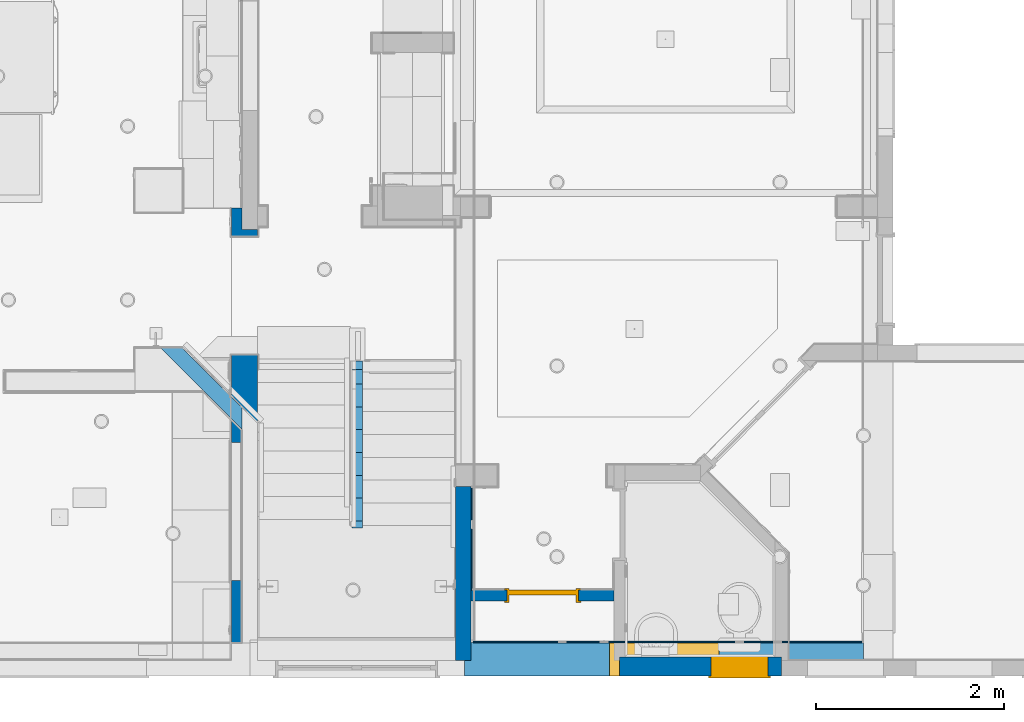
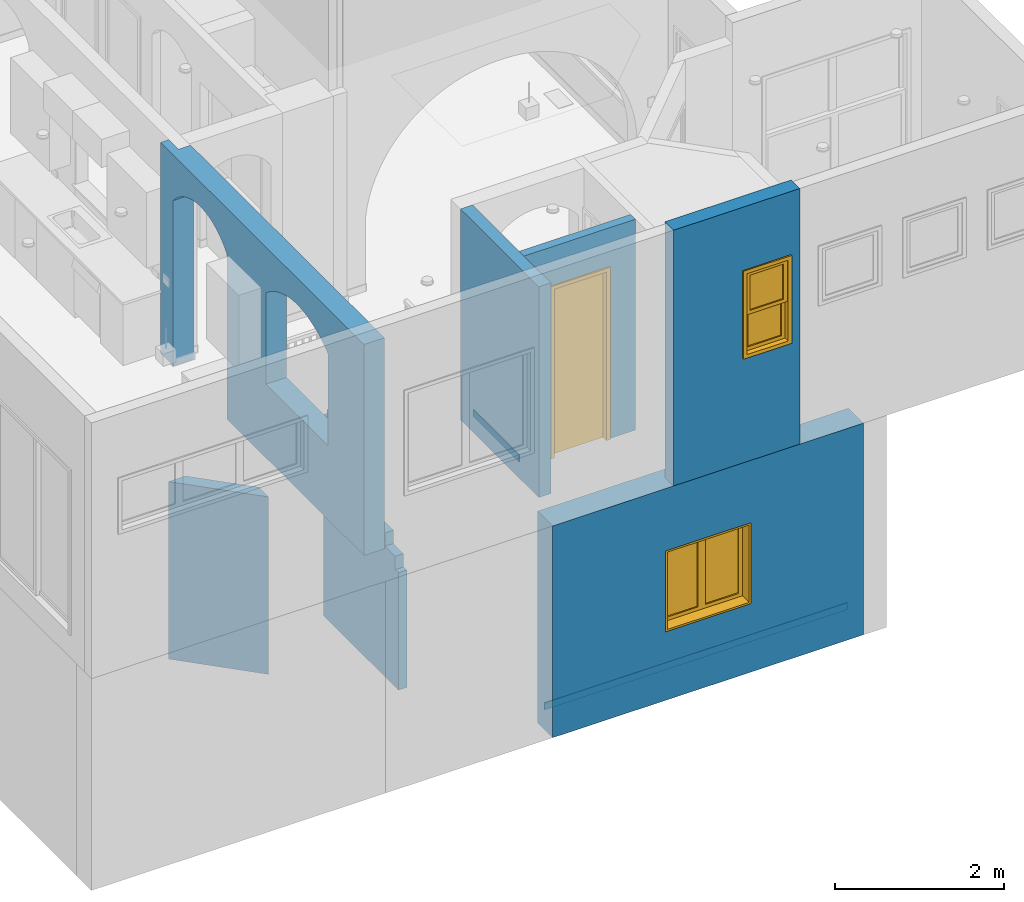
# One storey, part 4 of 60: 9 walls, 2 windows, 1 door, 8 openings.
"""IFC2X3 building model written with IfcOpenShell, lengths in feet."""

from ifc_helpers import new_model, entity, si_unit, converted_unit, direction, frame, frame_2d, origin, origin_2d_with_axis, place, context, subcontext, project, spatial, polyline, circle_curve, parameter, trimmed, segment, composite_curve, rectangle, outline, extrude, clip, bounded_halfspace, source, transform, mapped, material, material_list, layer, layer_set, layer_usage, type_object, type_shapes, element, fill, save


model = new_model("IFC2X3")

# Units and contexts
model_context = context("Model", 3, precision=0.0001, world=origin(), true_north=direction((6.123031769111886e-17, 1.0)))
plan_context = context("Plan", 3, precision=0.0001, world=origin(), true_north=direction((6.123031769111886e-17, 1.0)))
body_context = subcontext(model_context, "Body", "Model", "MODEL_VIEW")
ifc_project = project(units=[converted_unit("LENGTHUNIT", "FOOT", entity("IfcLengthMeasure", 0.3048), si_unit("LENGTHUNIT", "METRE"), dimensions=[1, 0, 0, 0, 0, 0, 0]), converted_unit("AREAUNIT", "SQUARE FOOT", entity("IfcAreaMeasure", 0.09290304), si_unit("AREAUNIT", "SQUARE_METRE"), dimensions=[2, 0, 0, 0, 0, 0, 0]), converted_unit("PLANEANGLEUNIT", "DEGREE", entity("IfcPlaneAngleMeasure", 0.017453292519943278), si_unit("PLANEANGLEUNIT", "RADIAN"), dimensions=[0, 0, 0, 0, 0, 0, 0])], contexts=[model_context, plan_context])

# Site, building, storey
site_placement = place(None, origin())
site = spatial("IfcSite", under=ifc_project, at=site_placement, Name="Default", CompositionType="ELEMENT")
building_placement = place(site_placement, origin())
building = spatial("IfcBuilding", under=site, at=building_placement, CompositionType="ELEMENT")
storey_placement = place(building_placement, origin())
storey = spatial("IfcBuildingStorey", under=building, at=storey_placement, Name="First floor", CompositionType="ELEMENT", Elevation=0.0)

# Walls
ifc_material_1 = material(Name="Default New Material")
ifc_layer_1 = layer(ifc_material_1, 0.5416666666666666)
ifc_layer_set_1 = layer_set([ifc_layer_1], Name="Basic Wall:Wall_6.5\"")
ifc_layer_usage_1 = layer_usage(ifc_layer_set_1, "AXIS2", "NEGATIVE", 0.2708333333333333)
wall_type_1 = type_object("IfcWallType", Name="Basic Wall:Wall_6.5\"", PredefinedType="STANDARD", material=ifc_layer_set_1)
wall_1_placement = place(storey_placement, frame((20.645833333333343, 6.625000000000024, 10.666666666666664), z_axis=(0.0, 0.0, 1.0), x_axis=(0.0, -1.0, 0.0)))
element("IfcWallStandardCase", 1, at=wall_1_placement, inside=storey, type_object=wall_type_1, material=ifc_layer_usage_1, Name="Basic Wall:Wall_6.5\"", ObjectType="Basic Wall:Wall_6.5\"", context=body_context, shape_type="SweptSolid", body=[
    extrude(rectangle(XDim=6.083333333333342, YDim=0.5416666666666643, at=frame_2d((3.041666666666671, 0.0), x_axis=(-1.0, 0.0))), origin(), (0.0, 0.0, 1.0), 10.0),
])
ifc_layer_usage_2 = layer_usage(ifc_layer_set_1, "AXIS2", "POSITIVE", -0.2708333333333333)
wall_2_placement = place(storey_placement, frame((13.10817367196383, 8.800476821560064, 0.0), z_axis=(0.0, 0.0, 1.0), x_axis=(-0.7071067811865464, 0.7071067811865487, 0.0)))
element("IfcWallStandardCase", 2, at=wall_2_placement, inside=storey, type_object=wall_type_1, material=ifc_layer_usage_2, Name="Basic Wall:Wall_6.5\"", ObjectType="Basic Wall:Wall_6.5\"", context=body_context, shape_type="SweptSolid", body=[
    extrude(outline(polyline([(3.4879155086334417, -0.27083333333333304), (4.0296049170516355, 0.2708333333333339), (1.9082400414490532, 0.2708333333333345), (0.0, 0.2708333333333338), (0.5416666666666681, -0.2708333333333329), (3.4879155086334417, -0.27083333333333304)])), origin(), (0.0, 0.0, 1.0), 8.416666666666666),
])

# Wall, opening, window
ifc_layer_2 = layer(ifc_material_1, 0.6666666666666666)
ifc_layer_set_2 = layer_set([ifc_layer_2], Name="Basic Wall:Wall_8\"")
ifc_layer_usage_3 = layer_usage(ifc_layer_set_2, "AXIS2", "NEGATIVE", 0.33333333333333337)
wall_type_2 = type_object("IfcWallType", Name="Basic Wall:Wall_8\"", PredefinedType="STANDARD", material=ifc_layer_set_2)
wall_3_placement = place(storey_placement, frame((31.770833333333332, 0.33333333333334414, 9.541666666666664), z_axis=(0.0, 0.0, 1.0), x_axis=(-1.0, 0.0, 0.0)))
wall_3 = element("IfcWallStandardCase", 3, at=wall_3_placement, inside=storey, type_object=wall_type_2, material=ifc_layer_usage_3, Name="Basic Wall:Wall_8\"", ObjectType="Basic Wall:Wall_8\"", context=body_context, shape_type="SweptSolid", body=[
    extrude(rectangle(XDim=5.666666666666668, YDim=0.6666666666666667, at=frame_2d((2.833333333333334, 0.0), x_axis=(-1.0, 0.0))), origin(), (0.0, 0.0, 1.0), 12.125),
])
opening_1_placement = place(wall_3_placement, frame((0.4791666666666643, -0.3333333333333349, 5.041666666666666)))
opening_1 = element("IfcOpeningElement", 4, at=opening_1_placement, cuts=wall_3, Name="C_Window Guilotine:1'-10\" X 3'-10\":1", ObjectType="Opening", context=body_context, shape_type="SweptSolid", body=[
    extrude(rectangle(XDim=1.9999999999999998, YDim=4.000000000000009, at=frame_2d((2.0000000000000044, 1.0), x_axis=(0.0, -1.0))), frame((0.0, 0.0, 0.0), z_axis=(0.0, 1.0, 0.0), x_axis=(0.0, 0.0, 1.0)), (0.0, 0.0, 1.0), 0.6666666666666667),
])
ifc_material_2 = material(Name="Glass")
ifc_material_list_1 = material_list([ifc_material_1, ifc_material_2])
window_style_1 = type_object("IfcWindowStyle", Name="C_Window Guilotine:1'-10\" X 3'-10\"", ConstructionType="NOTDEFINED", OperationType="NOTDEFINED", ParameterTakesPrecedence=False, Sizeable=False, material=ifc_material_list_1)
shared_shape_1 = source(origin(), body_context, "Body", "SweptSolid", [
    extrude(outline(polyline([(-1.0, -0.9166666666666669), (1.0, -0.9166666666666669), (1.0, 0.9166666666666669), (-1.0, 0.9166666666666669), (-1.0, -0.9166666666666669)]), holes=[polyline([(-0.8333333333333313, -0.7500000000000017), (-0.8333333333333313, 0.7499999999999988), (0.8333333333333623, 0.749999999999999), (0.8333333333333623, -0.7500000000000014), (-0.8333333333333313, -0.7500000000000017)])]), frame((1.0, 0.6666666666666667, 2.9166666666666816), z_axis=(0.0, -1.0, 0.0), x_axis=(0.0, 0.0, -1.0)), (0.0, 0.0, 1.0), 0.1666666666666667),
    extrude(rectangle(XDim=0.04166666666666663, YDim=1.5000000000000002, at=origin_2d_with_axis()), frame((1.0, 0.4166666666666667, 1.3402777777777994), z_axis=(0.0, 0.0, 1.0), x_axis=(0.0, 1.0, 0.0)), (0.0, 0.0, 1.0), 0.04166666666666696),
    extrude(rectangle(XDim=0.04166666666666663, YDim=1.5000000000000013, at=origin_2d_with_axis()), frame((1.0, 0.4166666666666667, 0.7847222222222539), z_axis=(0.0, 0.0, 1.0), x_axis=(0.0, 1.0, 0.0)), (0.0, 0.0, 1.0), 0.04166666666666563),
    extrude(rectangle(XDim=0.04166666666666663, YDim=1.5000000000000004, at=origin_2d_with_axis()), frame((1.0, 0.5833333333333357, 3.1736111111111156), z_axis=(0.0, 0.0, 1.0), x_axis=(0.0, 1.0, 0.0)), (0.0, 0.0, 1.0), 0.04166666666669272),
    extrude(rectangle(XDim=0.04166666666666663, YDim=1.5000000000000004, at=origin_2d_with_axis()), frame((1.0, 0.5833333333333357, 2.618055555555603), z_axis=(0.0, 0.0, 1.0), x_axis=(0.0, 1.0, 0.0)), (0.0, 0.0, 1.0), 0.04166666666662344),
    extrude(rectangle(XDim=0.04166666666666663, YDim=0.04166666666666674, at=origin_2d_with_axis()), frame((0.7500000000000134, 0.5833333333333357, 2.083333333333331), z_axis=(0.0, 0.0, 1.0), x_axis=(0.0, 1.0, 0.0)), (0.0, 0.0, 1.0), 1.666666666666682),
    extrude(rectangle(XDim=0.04166666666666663, YDim=0.04166666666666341, at=origin_2d_with_axis()), frame((1.250000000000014, 0.5833333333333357, 2.0833333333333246), z_axis=(0.0, 0.0, 1.0), x_axis=(0.0, 1.0, 0.0)), (0.0, 0.0, 1.0), 1.66666666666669),
    extrude(rectangle(XDim=0.04166666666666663, YDim=1.5000000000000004, at=origin_2d_with_axis()), frame((1.0, 0.5833333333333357, 2.0833333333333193), z_axis=(0.0, 0.0, 1.0), x_axis=(0.0, 1.0, 0.0)), (0.0, 0.0, 1.0), 1.6666666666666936),
    extrude(rectangle(XDim=0.04166666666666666, YDim=0.04166666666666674, at=origin_2d_with_axis()), frame((0.7500000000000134, 0.416666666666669, 0.2500000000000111), z_axis=(0.0, 0.0, 1.0), x_axis=(0.0, 1.0, 0.0)), (0.0, 0.0, 1.0), 1.66666666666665),
    extrude(rectangle(XDim=0.04166666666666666, YDim=0.04166666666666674, at=origin_2d_with_axis()), frame((1.2500000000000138, 0.416666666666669, 0.2500000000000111), z_axis=(0.0, 0.0, 1.0), x_axis=(0.0, 1.0, 0.0)), (0.0, 0.0, 1.0), 1.66666666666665),
    extrude(rectangle(XDim=0.04166666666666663, YDim=1.499999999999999, at=origin_2d_with_axis()), frame((1.0, 0.41666666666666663, 0.25000000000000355), z_axis=(0.0, 0.0, 1.0), x_axis=(0.0, 1.0, 0.0)), (0.0, 0.0, 1.0), 1.6666666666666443),
    extrude(outline(polyline([(-0.9166666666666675, -1.0), (0.9166666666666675, -1.0), (0.9166666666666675, 1.0), (-0.9166666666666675, 1.0), (-0.9166666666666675, -1.0)]), holes=[polyline([(0.7500000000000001, -0.8333333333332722), (-0.750000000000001, -0.8333333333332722), (-0.750000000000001, 0.8333333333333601), (0.7500000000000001, 0.8333333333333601), (0.7500000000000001, -0.8333333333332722)])]), frame((1.0, 0.5, 1.0833333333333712), z_axis=(0.0, -1.0, 0.0), x_axis=(-1.0, 0.0, 0.0)), (0.0, 0.0, 1.0), 0.16666666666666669),
    extrude(outline(polyline([(-1.083333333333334, -2.083333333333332), (1.083333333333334, -2.083333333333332), (1.083333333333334, 2.083333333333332), (-1.083333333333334, 2.083333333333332), (-1.083333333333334, -2.083333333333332)]), holes=[polyline([(-0.9166666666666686, -1.916666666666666), (-0.9166666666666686, 1.9166666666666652), (0.9166666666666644, 1.9166666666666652), (0.9166666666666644, -1.916666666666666), (-0.9166666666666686, -1.916666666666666)])]), frame((1.0, 0.0, 2.0), z_axis=(0.0, -1.0, 0.0), x_axis=(-1.0, 0.0, 0.0)), (0.0, 0.0, 1.0), 0.0625),
    extrude(outline(polyline([(-1.0833333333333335, -2.083333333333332), (1.0833333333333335, -2.083333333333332), (1.0833333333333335, 2.083333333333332), (-1.0833333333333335, 2.083333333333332), (-1.0833333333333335, -2.083333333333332)]), holes=[polyline([(-0.9166666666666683, -1.9166666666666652), (-0.9166666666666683, 1.916666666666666), (0.9166666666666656, 1.916666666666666), (0.9166666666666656, -1.9166666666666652), (-0.9166666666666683, -1.9166666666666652)])]), frame((1.0, 0.7291666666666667, 2.0), z_axis=(0.0, -1.0, 0.0), x_axis=(-1.0, 0.0, 0.0)), (0.0, 0.0, 1.0), 0.0625),
    extrude(outline(polyline([(-2.0, -1.0), (2.0, -1.0), (2.0, 1.0), (-2.0, 1.0), (-2.0, -1.0)]), holes=[polyline([(-1.9166666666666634, 0.9166666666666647), (1.9166666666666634, 0.9166666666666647), (1.9166666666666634, -0.9166666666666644), (-1.9166666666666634, -0.9166666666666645), (-1.9166666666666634, 0.9166666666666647)])]), frame((1.0, 0.6666666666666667, 2.0), z_axis=(0.0, -1.0, 0.0), x_axis=(0.0, 0.0, -1.0)), (0.0, 0.0, 1.0), 0.6666666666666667),
])
type_shapes(window_style_1, [shared_shape_1])
window_1_placement = place(opening_1_placement, origin())
window_1 = element("IfcWindow", 5, at=window_1_placement, inside=storey, type_object=window_style_1, material=ifc_material_list_1, Name="C_Window Guilotine:1'-10\" X 3'-10\"", ObjectType="C_Window Guilotine:1'-10\" X 3'-10\"", OverallHeight=4.000000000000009, OverallWidth=2.0, context=body_context, shape_type="MappedRepresentation", body=[
    mapped(shared_shape_1, transform((0.0, 0.0, 0.0), scale=1.0)),
])
fill(opening_1, window_1)

# Wall, opening, door
ifc_layer_3 = layer(ifc_material_1, 0.375)
ifc_layer_set_3 = layer_set([ifc_layer_3], Name="Basic Wall:Wall_4.5\"")
ifc_layer_usage_4 = layer_usage(ifc_layer_set_3, "AXIS2", "NEGATIVE", 0.1875)
wall_type_3 = type_object("IfcWallType", Name="Basic Wall:Wall_4.5\"", PredefinedType="STANDARD", material=ifc_layer_set_3)
wall_4_placement = place(storey_placement, frame((25.916666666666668, 2.812500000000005, 10.666666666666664), z_axis=(0.0, 0.0, 1.0), x_axis=(-1.0, 0.0, 0.0)))
wall_4 = element("IfcWallStandardCase", 6, at=wall_4_placement, inside=storey, type_object=wall_type_3, material=ifc_layer_usage_4, Name="Basic Wall:Wall_4.5\"", ObjectType="Basic Wall:Wall_4.5\"", context=body_context, shape_type="SweptSolid", body=[
    extrude(rectangle(XDim=5.0, YDim=0.375, at=frame_2d((2.5, 0.0), x_axis=(1.0, 0.0))), origin(), (0.0, 0.0, 1.0), 10.0),
])
opening_2_placement = place(wall_4_placement, frame((3.750000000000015, 0.1874999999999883, 0.0)))
opening_2 = element("IfcOpeningElement", 7, at=opening_2_placement, cuts=wall_4, Name="C_Single Door:2'-4\" X 8'-0\":1", ObjectType="Opening", context=body_context, shape_type="SweptSolid", body=[
    extrude(rectangle(XDim=2.4999999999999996, YDim=8.083333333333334, at=frame_2d((4.041666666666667, 1.25), x_axis=(0.0, 1.0))), frame((0.0, 0.0, 0.0), z_axis=(0.0, -1.0, 0.0), x_axis=(0.0, 0.0, 1.0)), (0.0, 0.0, 1.0), 0.375),
])
door_style = type_object("IfcDoorStyle", Name="C_Single Door:2'-4\" X 8'-0\"", ConstructionType="NOTDEFINED", OperationType="SINGLE_SWING_RIGHT", ParameterTakesPrecedence=False, Sizeable=False, material=ifc_material_1)
shared_shape_2 = source(origin(), body_context, "Body", "SweptSolid", [
    extrude(rectangle(XDim=2.333333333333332, YDim=0.16666666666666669, at=origin_2d_with_axis()), frame((1.2500000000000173, 0.08333333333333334, 0.0)), (0.0, 0.0, 1.0), 8.0),
    extrude(outline(polyline([(-3.958333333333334, 1.1666666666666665), (4.041666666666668, 1.1666666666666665), (4.041666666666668, 1.3333333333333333), (-4.125000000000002, 1.3333333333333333), (-4.125000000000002, -1.3333333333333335), (4.041666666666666, -1.3333333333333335), (4.041666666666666, -1.1666666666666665), (-3.958333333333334, -1.1666666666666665), (-3.958333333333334, 1.1666666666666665)])), frame((1.2500000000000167, 0.0, 4.041666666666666), z_axis=(0.0, -1.0, 0.0), x_axis=(0.0, 0.0, -1.0)), (0.0, 0.0, 1.0), 0.0625),
    extrude(outline(polyline([(-3.958333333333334, 1.1666666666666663), (4.041666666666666, 1.1666666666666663), (4.041666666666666, 1.3333333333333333), (-4.125, 1.3333333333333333), (-4.125, -1.3333333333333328), (4.041666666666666, -1.3333333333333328), (4.041666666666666, -1.1666666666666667), (-3.958333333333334, -1.1666666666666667), (-3.958333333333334, 1.1666666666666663)])), frame((1.2500000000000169, 0.4375, 4.041666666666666), z_axis=(0.0, -1.0, 0.0), x_axis=(0.0, 0.0, -1.0)), (0.0, 0.0, 1.0), 0.0625),
    extrude(outline(polyline([(1.1666666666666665, -4.020833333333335), (1.249999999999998, -4.020833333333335), (1.2499999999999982, 4.0625), (-1.2499999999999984, 4.0625), (-1.2499999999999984, -4.020833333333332), (-1.1666666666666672, -4.020833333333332), (-1.1666666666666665, 3.979166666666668), (1.1666666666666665, 3.979166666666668), (1.1666666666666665, -4.020833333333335)])), frame((1.2500000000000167, 0.375, 4.020833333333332), z_axis=(0.0, -1.0, 0.0), x_axis=(1.0, 0.0, 0.0)), (0.0, 0.0, 1.0), 0.375),
])
type_shapes(door_style, [shared_shape_2])
door_placement = place(opening_2_placement, frame((-2.500000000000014, -0.37499999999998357, 0.0)))
door = element("IfcDoor", 8, at=door_placement, inside=storey, type_object=door_style, material=ifc_material_1, Name="C_Single Door:2'-4\" X 8'-0\"", ObjectType="C_Single Door:2'-4\" X 8'-0\"", OverallHeight=8.083333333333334, OverallWidth=2.5, context=body_context, shape_type="MappedRepresentation", body=[
    mapped(shared_shape_2, transform((0.0, 0.0, 0.0), scale=1.0)),
])
fill(opening_2, door)

# Wall, opening
ifc_layer_usage_5 = layer_usage(ifc_layer_set_3, "AXIS2", "NEGATIVE", 0.1875)
wall_5_placement = place(storey_placement, frame((16.937499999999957, 11.0, 0.0), z_axis=(0.0, 0.0, 1.0), x_axis=(0.0, -1.0, 0.0)))
wall_5 = element("IfcWallStandardCase", 9, at=wall_5_placement, inside=storey, type_object=wall_type_3, material=ifc_layer_usage_5, Name="Basic Wall:Wall_4.5\"", ObjectType="Basic Wall:Wall_4.5\"", context=body_context, shape_type="Clipping", body=[
    clip(clip(extrude(rectangle(XDim=5.833333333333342, YDim=0.375, at=frame_2d((2.916666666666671, 0.0), x_axis=(-1.0, 0.0))), origin(), (0.0, 0.0, 1.0), 9.958333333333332), bounded_halfspace(frame((0.2916666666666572, -0.1875000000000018, 9.541666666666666), z_axis=(0.0, 0.0, -1.0), x_axis=(-1.0, 0.0, 0.0)), True, frame((0.2916666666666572, -0.1875000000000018, 9.541666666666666), z_axis=(0.0, 0.0, -1.0), x_axis=(-1.0, 0.0, 0.0)), polyline([(0.0, 0.0), (0.2916666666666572, 0.0), (0.2916666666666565, 0.37500000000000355), (0.0, 0.37500000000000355), (0.0, 0.0)]))), bounded_halfspace(frame((0.2916666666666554, 0.1874999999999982, 9.541666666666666), z_axis=(1.0, 0.0, 0.0), x_axis=(0.0, 0.0, 1.0)), True, frame((0.2916666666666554, 0.1874999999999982, 9.541666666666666), z_axis=(1.0, 0.0, 0.0), x_axis=(0.0, 0.0, 1.0)), polyline([(0.0, 0.0), (0.4166666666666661, 0.0), (0.4166666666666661, 0.37499999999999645), (0.0, 0.37499999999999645), (0.0, 0.0)]))),
])
opening_3_placement = place(wall_5_placement, frame((11.0, -16.937499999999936, 0.0)))
element("IfcOpeningElement", 10, at=opening_3_placement, cuts=wall_5, Name="Basic Wall:Wall_4.5\"", ObjectType="Opening", context=body_context, shape_type="SweptSolid", body=[
    extrude(outline(polyline([(-2.3209978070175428, -2.3026216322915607), (-2.3209978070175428, -2.3859549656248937), (-2.320997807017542, -2.552621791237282), (2.155564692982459, -2.552621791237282), (2.155564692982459, 3.113951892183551), (2.0722313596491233, 3.113951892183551), (2.0722313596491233, 2.4830925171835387), (1.4446271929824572, 2.4830925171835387), (1.4446271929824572, 1.6854734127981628), (0.8170230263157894, 1.6854734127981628), (0.8170230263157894, 0.8878543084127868), (0.1894188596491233, 0.8878543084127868), (0.1894188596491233, 0.09023544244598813), (-0.4381853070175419, 0.09023544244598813), (-0.4381853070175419, -0.7073839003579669), (-1.0657894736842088, -0.7073839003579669), (-1.0657894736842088, -1.5050027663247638), (-1.6933936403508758, -1.5050027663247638), (-1.6933936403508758, -2.3026216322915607), (-2.3209978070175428, -2.3026216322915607)])), frame((-7.719288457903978, 16.74999999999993, 7.886101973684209), z_axis=(0.0, -1.0, 0.0), x_axis=(0.0, 0.0, 1.0)), (0.0, 0.0, -1.0), 0.375),
])

# Wall, openings
ifc_layer_4 = layer(ifc_material_1, 0.9166666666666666)
ifc_layer_set_4 = layer_set([ifc_layer_4], Name="Basic Wall:Wall_11\"")
ifc_layer_usage_6 = layer_usage(ifc_layer_set_4, "AXIS2", "NEGATIVE", 0.45833333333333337)
wall_type_4 = type_object("IfcWallType", Name="Basic Wall:Wall_11\"", PredefinedType="STANDARD", material=ifc_layer_set_4)
wall_6_placement = place(storey_placement, frame((13.0, 16.3538215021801, 10.666666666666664), z_axis=(0.0, 0.0, 1.0), x_axis=(0.0, -1.0, 0.0)))
wall_6 = element("IfcWallStandardCase", 11, at=wall_6_placement, inside=storey, type_object=wall_type_4, material=ifc_layer_usage_6, Name="Basic Wall:Wall_11\"", ObjectType="Basic Wall:Wall_11\"", context=body_context, shape_type="Clipping", body=[
    clip(clip(extrude(rectangle(XDim=15.812154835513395, YDim=0.9166666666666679, at=frame_2d((7.9060774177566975, -2.220446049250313e-16), x_axis=(-1.0, 0.0))), origin(), (0.0, 0.0, 1.0), 10.0), bounded_halfspace(frame((0.74965483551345, -0.08333333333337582, 10.0), z_axis=(0.0, -1.0, 0.0), x_axis=(1.0, 0.0, 0.0)), True, frame((0.74965483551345, -0.08333333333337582, 10.0), z_axis=(0.0, -1.0, 0.0), x_axis=(1.0, 0.0, 0.0)), polyline([(0.0, 0.0), (-0.74965483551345, 0.0), (-0.74965483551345, -10.0), (0.0, -10.0), (0.0, 0.0)]))), bounded_halfspace(frame((0.74965483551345, -0.08333333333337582, 0.0), z_axis=(1.0, 0.0, 0.0), x_axis=(0.0, 1.0, 0.0)), True, frame((0.74965483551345, -0.08333333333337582, 0.0), z_axis=(1.0, 0.0, 0.0), x_axis=(0.0, 1.0, 0.0)), polyline([(0.0, 0.0), (0.5416666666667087, 0.0), (0.5416666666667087, 10.0), (0.0, 10.0), (0.0, 0.0)]))),
])
opening_4_placement = place(wall_6_placement, frame((16.35382150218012, -13.0, -10.666666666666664)))
element("IfcOpeningElement", 12, at=opening_4_placement, cuts=wall_6, Name="Basic Wall:Wall_11\"", ObjectType="Opening", context=body_context, shape_type="SweptSolid", body=[
    extrude(outline(composite_curve([segment(polyline([(-3.9166666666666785, -2.0833333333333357), (3.916666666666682, -2.0833333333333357)]), True, "CONTINUOUS"), segment(polyline([(3.916666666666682, -2.0833333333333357), (3.916666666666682, 2.0833333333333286)]), True, "CONTINUOUS"), segment(polyline([(3.916666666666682, 2.0833333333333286), (-3.9166666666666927, 2.0833333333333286)]), True, "CONTINUOUS"), segment(trimmed(circle_curve(frame_2d((-2.2465277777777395, 0.0), x_axis=(0.0, -1.0)), 2.670138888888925), [parameter(218.71798835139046)], [parameter(321.2820116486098)], True, "PARAMETER"), True, "CONTINUOUS")], self_intersect=False)), frame((-13.291321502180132, 12.458333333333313, 14.583333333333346), z_axis=(0.0, 1.0, 0.0), x_axis=(0.0, 0.0, -1.0)), (0.0, 0.0, 1.0), 1.0),
])
opening_5_placement = place(wall_6_placement, frame((16.35382150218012, -13.0, -10.666666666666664)))
element("IfcOpeningElement", 13, at=opening_5_placement, cuts=wall_6, Name="Basic Wall:Wall_11\"", ObjectType="Opening", context=body_context, shape_type="SweptSolid", body=[
    extrude(outline(composite_curve([segment(polyline([(-2.416666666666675, -2.166666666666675), (2.4166666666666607, -2.166666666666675)]), True, "CONTINUOUS"), segment(polyline([(2.4166666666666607, -2.166666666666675), (2.4166666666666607, 2.1666666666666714)]), True, "CONTINUOUS"), segment(trimmed(circle_curve(frame_2d((0.0, -0.5606060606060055), x_axis=(-1.0, 0.0)), 3.6439393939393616), [parameter(228.4554906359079)], [parameter(311.5445093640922)], True, "PARAMETER"), True, "CONTINUOUS"), segment(polyline([(-2.416666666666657, 2.1666666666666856), (-2.416666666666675, -2.166666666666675)]), True, "CONTINUOUS")], self_intersect=False)), frame((-5.750000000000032, 12.541666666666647, 16.333333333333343), z_axis=(0.0, 1.0, 0.0), x_axis=(-1.0, 0.0, 0.0)), (0.0, 0.0, 1.0), 0.9166666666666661),
])
opening_6_placement = place(wall_6_placement, frame((16.35382150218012, -13.0, -10.666666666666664)))
element("IfcOpeningElement", 14, at=opening_6_placement, cuts=wall_6, Name="Basic Wall:Wall_11\"", ObjectType="Recess", context=body_context, shape_type="SweptSolid", body=[
    extrude(outline(composite_curve([segment(polyline([(-1.9166666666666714, -1.2500000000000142), (1.9166666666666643, -1.2500000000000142)]), True, "CONTINUOUS"), segment(polyline([(1.9166666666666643, -1.2500000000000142), (1.9166666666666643, 1.2500000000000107)]), True, "CONTINUOUS"), segment(trimmed(circle_curve(frame_2d((0.0, -0.2954545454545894), x_axis=(-1.0, 0.0)), 2.462121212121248), [parameter(218.8800696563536)], [parameter(321.11993034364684)], True, "PARAMETER"), True, "CONTINUOUS"), segment(polyline([(-1.9166666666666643, 1.2500000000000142), (-1.9166666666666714, -1.2500000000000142)]), True, "CONTINUOUS")], self_intersect=False)), frame((-21.666321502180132, 12.9166666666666, 15.333333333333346), z_axis=(0.0, 1.0, 0.0), x_axis=(-1.0, 0.0, 0.0)), (0.0, 0.0, 1.0), 0.5416666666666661),
])
opening_7_placement = place(wall_6_placement, frame((16.35382150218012, -13.0, -10.666666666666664)))
element("IfcOpeningElement", 15, at=opening_7_placement, cuts=wall_6, Name="Basic Wall:Wall_11\"", ObjectType="Recess", context=body_context, shape_type="SweptSolid", body=[
    extrude(outline(composite_curve([segment(polyline([(-1.75, -3.9166666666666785), (1.75, -3.9166666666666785)]), True, "CONTINUOUS"), segment(polyline([(1.75, -3.9166666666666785), (1.75, 3.9166666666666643)]), True, "CONTINUOUS"), segment(trimmed(circle_curve(frame_2d((0.0, 2.885416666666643), x_axis=(1.0, 0.0)), 2.031250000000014), [parameter(30.51023740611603)], [parameter(149.48976259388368)], True, "PARAMETER"), True, "CONTINUOUS"), segment(polyline([(-1.75, 3.9166666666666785), (-1.75, -3.9166666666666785)]), True, "CONTINUOUS")], self_intersect=False)), frame((-28.957988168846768, 12.916666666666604, 14.583333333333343), z_axis=(0.0, 1.0, 0.0), x_axis=(-1.0, 0.0, 0.0)), (0.0, 0.0, 1.0), 0.6666666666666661),
])

# Wall, opening, window
ifc_layer_5 = layer(ifc_material_1, 1.1666666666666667)
ifc_layer_set_5 = layer_set([ifc_layer_5], Name="Basic Wall:Wall_1'2\"")
ifc_layer_usage_7 = layer_usage(ifc_layer_set_5, "AXIS2", "NEGATIVE", 0.5833333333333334)
wall_type_5 = type_object("IfcWallType", Name="Basic Wall:Wall_1'2\"", PredefinedType="STANDARD", material=ifc_layer_set_5)
wall_7_placement = place(storey_placement, frame((34.624999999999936, 0.5833333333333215, -0.5), z_axis=(0.0, 0.0, 1.0), x_axis=(-1.0, 0.0, 0.0)))
wall_7 = element("IfcWallStandardCase", 16, at=wall_7_placement, inside=storey, type_object=wall_type_5, material=ifc_layer_usage_7, Name="Basic Wall:Wall_1'2\"", ObjectType="Basic Wall:Wall_1'2\"", context=body_context, shape_type="SweptSolid", body=[
    extrude(rectangle(XDim=13.937499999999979, YDim=1.166666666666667, at=frame_2d((6.968749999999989, 0.0), x_axis=(-1.0, 0.0))), origin(), (0.0, 0.0, 1.0), 10.041666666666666),
])
opening_8_placement = place(wall_7_placement, frame((8.87499999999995, 0.5833333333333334, 3.2499999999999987)))
opening_8 = element("IfcOpeningElement", 17, at=opening_8_placement, cuts=wall_7, Name="C_Double Window:3'-8\" X 3'-8\":1", ObjectType="Opening", context=body_context, shape_type="SweptSolid", body=[
    extrude(rectangle(XDim=3.833333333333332, YDim=3.833333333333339, at=frame_2d((1.9166666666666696, 1.916666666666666), x_axis=(0.0, 1.0))), frame((0.0, 0.0, 0.0), z_axis=(0.0, -1.0, 0.0), x_axis=(0.0, 0.0, 1.0)), (0.0, 0.0, 1.0), 1.1666666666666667),
])
ifc_material_list_2 = material_list([ifc_material_2, ifc_material_1])
window_style_2 = type_object("IfcWindowStyle", Name="C_Double Window:3'-8\" X 3'-8\"", ConstructionType="NOTDEFINED", OperationType="NOTDEFINED", ParameterTakesPrecedence=False, Sizeable=False, material=ifc_material_list_2)
shared_shape_3 = source(origin(), body_context, "Body", "SweptSolid", [
    extrude(rectangle(XDim=1.5000000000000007, YDim=0.04166666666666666, at=origin_2d_with_axis()), frame((1.0, 0.6041666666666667, 0.2500000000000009)), (0.0, 0.0, 1.0), 3.3333333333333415),
    extrude(outline(polyline([(-0.9166666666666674, -1.833333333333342), (0.9166666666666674, -1.833333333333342), (0.9166666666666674, 1.833333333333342), (-0.9166666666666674, 1.833333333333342), (-0.9166666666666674, -1.833333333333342)]), holes=[polyline([(0.7499999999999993, -1.666666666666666), (-0.7500000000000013, -1.666666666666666), (-0.7500000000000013, 1.6666666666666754), (0.7499999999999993, 1.6666666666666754), (0.7499999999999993, -1.666666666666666)])]), frame((1.0, 0.5208333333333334, 1.9166666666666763), z_axis=(0.0, 1.0, 0.0), x_axis=(1.0, 0.0, 0.0)), (0.0, 0.0, 1.0), 0.16666666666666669),
    extrude(rectangle(XDim=1.5000000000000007, YDim=0.04166666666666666, at=origin_2d_with_axis()), frame((2.833333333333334, 0.6041666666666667, 0.2500000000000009)), (0.0, 0.0, 1.0), 3.3333333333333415),
    extrude(outline(polyline([(-0.9166666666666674, -1.833333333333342), (0.9166666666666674, -1.833333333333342), (0.9166666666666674, 1.833333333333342), (-0.9166666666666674, 1.833333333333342), (-0.9166666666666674, -1.833333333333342)]), holes=[polyline([(0.7499999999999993, -1.666666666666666), (-0.7500000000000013, -1.666666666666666), (-0.7500000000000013, 1.6666666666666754), (0.7499999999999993, 1.6666666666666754), (0.7499999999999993, -1.666666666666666)])]), frame((2.833333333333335, 0.5208333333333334, 1.9166666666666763), z_axis=(0.0, 1.0, 0.0), x_axis=(1.0, 0.0, 0.0)), (0.0, 0.0, 1.0), 0.16666666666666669),
    extrude(outline(polyline([(-1.9166666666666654, -1.9166666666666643), (1.916666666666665, -1.9166666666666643), (1.9166666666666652, 1.9166666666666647), (-1.9166666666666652, 1.9166666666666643), (-1.9166666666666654, -1.9166666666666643)]), holes=[polyline([(1.833333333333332, -1.8333333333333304), (-1.8333333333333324, -1.8333333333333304), (-1.8333333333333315, 1.8333333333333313), (1.8333333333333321, 1.8333333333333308), (1.833333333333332, -1.8333333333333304)])]), frame((1.9166666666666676, 0.0, 1.9166666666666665), z_axis=(0.0, 1.0, 0.0), x_axis=(1.0, 0.0, 0.0)), (0.0, 0.0, 1.0), 1.166666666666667),
])
type_shapes(window_style_2, [shared_shape_3])
window_2_placement = place(opening_8_placement, frame((0.0, 0.0, 0.0), z_axis=(0.0, 0.0, 1.0), x_axis=(-1.0, 0.0, 0.0)))
window_2 = element("IfcWindow", 18, at=window_2_placement, inside=storey, type_object=window_style_2, material=ifc_material_list_2, Name="C_Double Window:3'-8\" X 3'-8\"", ObjectType="C_Double Window:3'-8\" X 3'-8\"", OverallHeight=3.833333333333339, OverallWidth=3.833333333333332, context=body_context, shape_type="MappedRepresentation", body=[
    mapped(shared_shape_3, transform((0.0, 0.0, 0.0), scale=1.0)),
])
fill(opening_8, window_2)

# Walls
ifc_layer_6 = layer(ifc_material_1, 0.041666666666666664)
ifc_layer_set_6 = layer_set([ifc_layer_6], Name="Basic Wall:Wall Border_T1")
ifc_layer_usage_8 = layer_usage(ifc_layer_set_6, "AXIS2", "POSITIVE", -0.020833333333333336)
wall_type_6 = type_object("IfcWallType", Name="Basic Wall:Wall Border_T1", PredefinedType="STANDARD", material=ifc_layer_set_6)
wall_8_placement = place(storey_placement, frame((34.58333333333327, 1.1874999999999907, 0.0), z_axis=(0.0, 0.0, 1.0), x_axis=(-1.0, 0.0, 0.0)))
element("IfcWallStandardCase", 19, at=wall_8_placement, inside=storey, type_object=wall_type_6, material=ifc_layer_usage_8, Name="Basic Wall:Wall Border_T1", ObjectType="Basic Wall:Wall Border_T1", context=body_context, shape_type="SweptSolid", body=[
    extrude(rectangle(XDim=13.583333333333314, YDim=0.04166666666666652, at=frame_2d((6.791666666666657, 4.336808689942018e-17), x_axis=(-1.0, 0.0))), origin(), (0.0, 0.0, 1.0), 0.3333333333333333),
])
ifc_layer_usage_9 = layer_usage(ifc_layer_set_6, "AXIS2", "NEGATIVE", 0.020833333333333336)
wall_9_placement = place(storey_placement, frame((20.937499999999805, 6.58333333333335, 10.666666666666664), z_axis=(0.0, 0.0, 1.0), x_axis=(0.0, -1.0, 0.0)))
element("IfcWallStandardCase", 20, at=wall_9_placement, inside=storey, type_object=wall_type_6, material=ifc_layer_usage_9, Name="Basic Wall:Wall Border_T1", ObjectType="Basic Wall:Wall Border_T1", context=body_context, shape_type="SweptSolid", body=[
    extrude(rectangle(XDim=3.583333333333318, YDim=0.0416666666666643, at=frame_2d((1.791666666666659, 5.048045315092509e-16), x_axis=(-1.0, 0.0))), origin(), (0.0, 0.0, 1.0), 0.3333333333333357),
])

save(model, "model.ifc")
